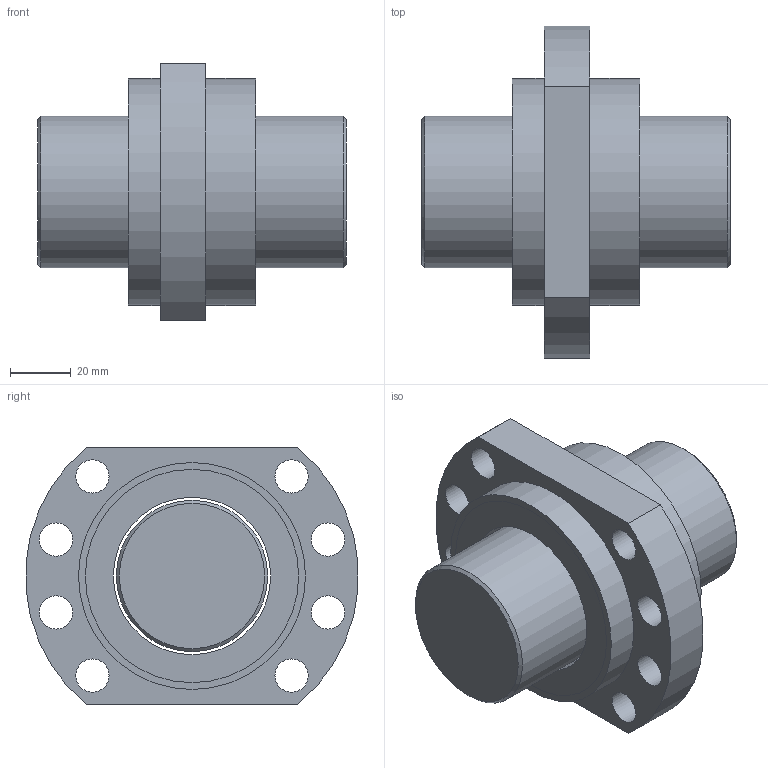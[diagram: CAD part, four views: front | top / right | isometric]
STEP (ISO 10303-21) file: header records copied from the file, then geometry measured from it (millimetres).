
FILE_DESCRIPTION(/* description */ (''),/* implementation_level */ '2;1');
FILE_NAME(/* name */ 'SFH5005-3.8.stp',/* time_stamp */ '2014-10-15T11:53:35+08:00',/* author */ (''),/* organization */ (''),/* preprocessor_version */ 'ST-DEVELOPER v11',/* originating_system */ 'SIEMENS UGS NX 6.0',/* authorisation */ '');
FILE_SCHEMA (('CONFIG_CONTROL_DESIGN'));
Length unit declared in the file: millimetre
Products named in the file (1): fannB1F9gm9c
Bounding box: 102 x 109.65 x 85 mm (x, y, z)
Volume: 343458.6 mm3; surface area: 67582.7 mm2
Topology: 4 solids, 4 shells, 52 faces, 96 edges, 64 vertices
Faces by surface type: cylinder 28, plane 22, cone 2
Full cylindrical faces by diameter (mm): 11 x8, 50 x1, 52 x3, 67 x4, 70.5 x4, 72 x4, 75 x2
Entity records: 1284 total; most frequent: DIRECTION 230, CARTESIAN_POINT 181, ORIENTED_EDGE 132, EDGE_LOOP 114, AXIS2_PLACEMENT_3D 111, FACE_BOUND 108, EDGE_CURVE 66, VERTEX_POINT 62
